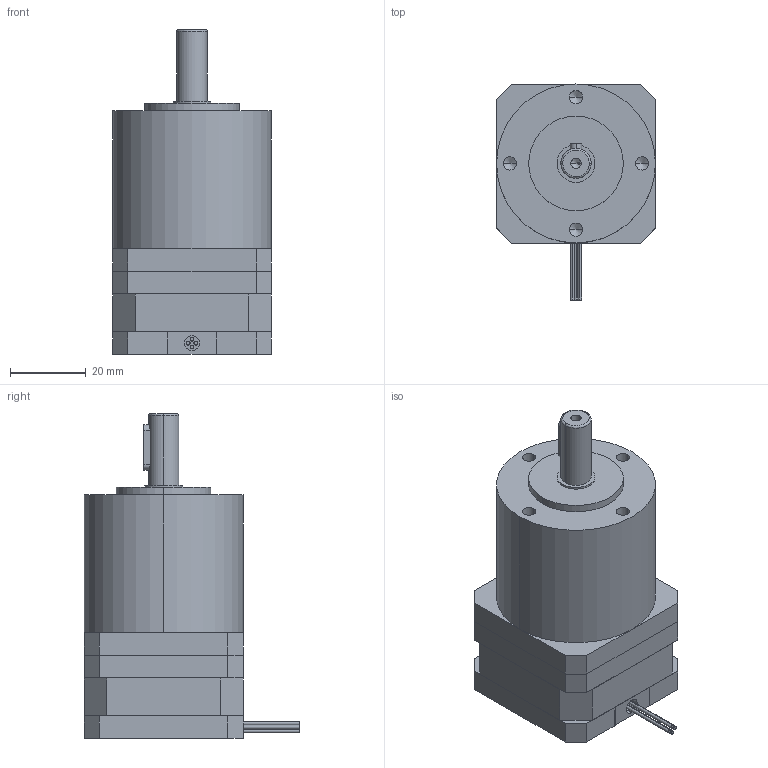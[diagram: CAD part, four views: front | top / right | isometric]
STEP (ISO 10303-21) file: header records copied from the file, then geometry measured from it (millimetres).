
FILE_DESCRIPTION (( 'STEP AP203' ), '1' );
FILE_NAME ('42PG010-D05-0422.STEP', '2019-09-21T08:37:19', ( 'China' ), ( 'Home' ), 'SwSTEP 2.0', 'SolidWorks 2016', '' );
FILE_SCHEMA (( 'CONFIG_CONTROL_DESIGN' ));
Length unit declared in the file: millimetre
Products named in the file (1): 42PG010-D05-0422
Bounding box: 42 x 57 x 85.9 mm (x, y, z)
Volume: 100316.4 mm3; surface area: 24402.5 mm2
Topology: 5 solids, 5 shells, 103 faces, 237 edges, 147 vertices
Faces by surface type: plane 60, cylinder 31, cone 10, bspline 2
Entity records: 2914 total; most frequent: CARTESIAN_POINT 514, DIRECTION 495, ORIENTED_EDGE 454, EDGE_CURVE 227, AXIS2_PLACEMENT_3D 168, VECTOR 159, LINE 159, VERTEX_POINT 147
